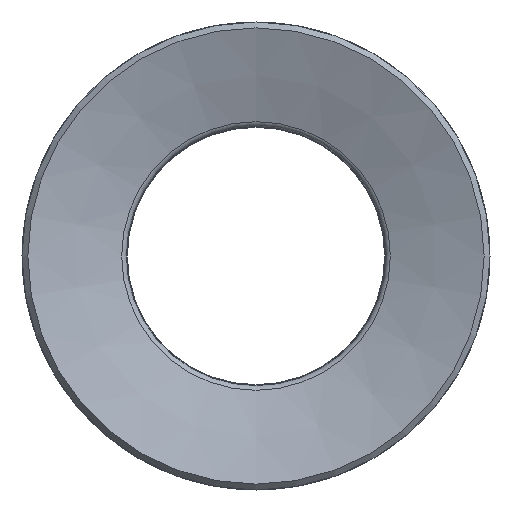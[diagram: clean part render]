
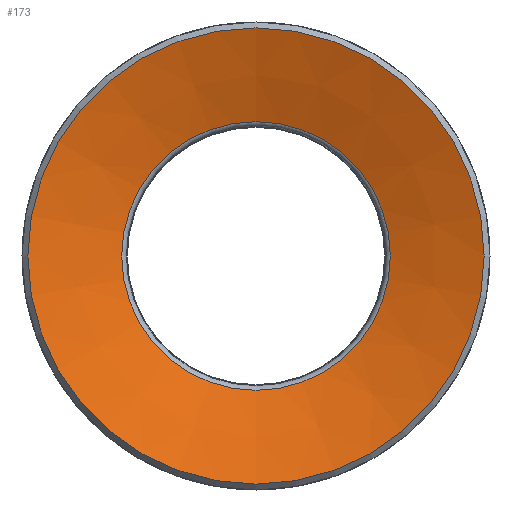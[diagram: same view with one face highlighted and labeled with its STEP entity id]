
A CAD part, front view. The second image highlights one B-rep face of the part: STEP entity #173.
In plain terms, the highlighted conical face has half-angle 71 degrees and reference radius 5.741 mm.
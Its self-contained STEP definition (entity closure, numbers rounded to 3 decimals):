
#173=ADVANCED_FACE('',(#435,#436),#437,.F.);
#435=FACE_BOUND('',#704,.T.);
#436=FACE_OUTER_BOUND('',#705,.T.);
#437=CONICAL_SURFACE('',#706,5.741,1.239);
#704=EDGE_LOOP('',(#1337));
#705=EDGE_LOOP('',(#1338));
#706=AXIS2_PLACEMENT_3D('',#1339,#1340,#1341);
#1337=ORIENTED_EDGE('',*,*,#1477,.F.);
#1338=ORIENTED_EDGE('',*,*,#1473,.T.);
#1339=CARTESIAN_POINT('',(0.0,1.38,0.0));
#1340=DIRECTION('',(0.0,-1.0,-0.0));
#1341=DIRECTION('',(0.0,0.0,-1.0));
#1473=EDGE_CURVE('',#1739,#1739,#1740,.T.);
#1477=EDGE_CURVE('',#1747,#1747,#1748,.T.);
#1739=VERTEX_POINT('',#2167);
#1740=CIRCLE('',#2168,9.75);
#1747=VERTEX_POINT('',#2175);
#1748=CIRCLE('',#2176,5.741);
#2167=CARTESIAN_POINT('',(0.0,0.0,-9.75));
#2168=AXIS2_PLACEMENT_3D('',#2537,#2538,#2539);
#2175=CARTESIAN_POINT('',(0.0,1.38,-5.741));
#2176=AXIS2_PLACEMENT_3D('',#2549,#2550,#2551);
#2537=CARTESIAN_POINT('',(0.0,0.0,0.0));
#2538=DIRECTION('',(0.0,-1.0,0.0));
#2539=DIRECTION('',(0.0,0.0,-1.0));
#2549=CARTESIAN_POINT('',(0.0,1.38,0.0));
#2550=DIRECTION('',(0.0,-1.0,0.0));
#2551=DIRECTION('',(0.0,0.0,-1.0));
